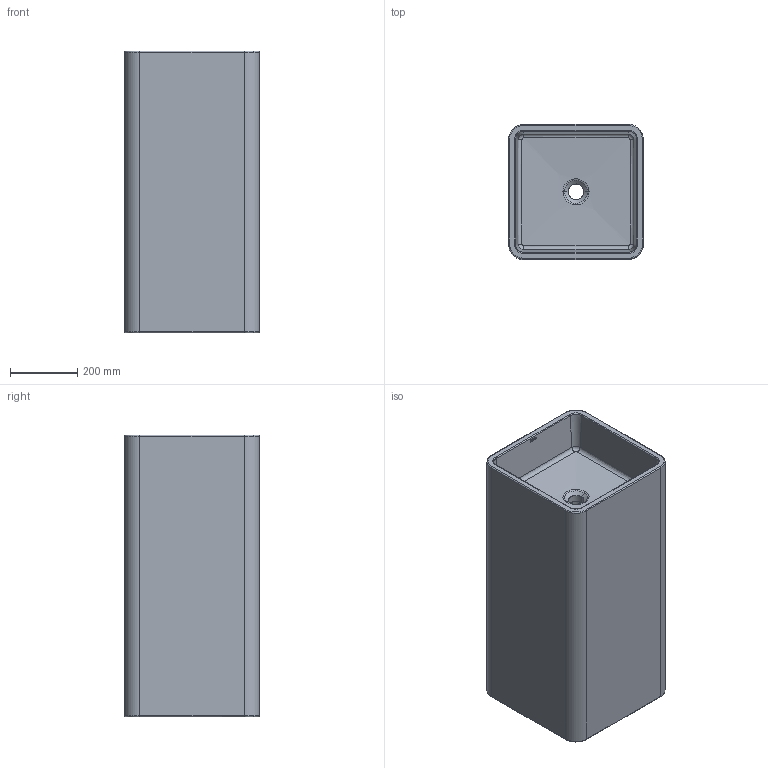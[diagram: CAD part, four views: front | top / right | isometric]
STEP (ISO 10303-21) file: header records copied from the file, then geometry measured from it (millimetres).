
FILE_DESCRIPTION(/* description */ (''),/* implementation_level */ '2;1');
FILE_NAME(/* name */ '4164_A~1',/* time_stamp */ '2022-06-21T14:06:21+02:00',/* author */ (''),/* organization */ (''),/* preprocessor_version */ 'ST-DEVELOPER v16.5',/* originating_system */ '',/* authorisation */ '');
FILE_SCHEMA (('CONFIG_CONTROL_DESIGN'));
Length unit declared in the file: millimetre
Products named in the file (1): Document
Bounding box: 400 x 400 x 835 mm (x, y, z)
Volume: 15014308 mm3; surface area: 3027148.4 mm2
Topology: 7 solids, 7 shells, 178 faces, 398 edges, 236 vertices
Faces by surface type: bspline 84, plane 65, cylinder 29
Full cylindrical faces by diameter (mm): 95 x1
Entity records: 11076 total; most frequent: CARTESIAN_POINT 8407, ORIENTED_EDGE 796, EDGE_CURVE 398, B_SPLINE_CURVE_WITH_KNOTS 258, VERTEX_POINT 236, EDGE_LOOP 192, ADVANCED_FACE 178, FACE_OUTER_BOUND 178
